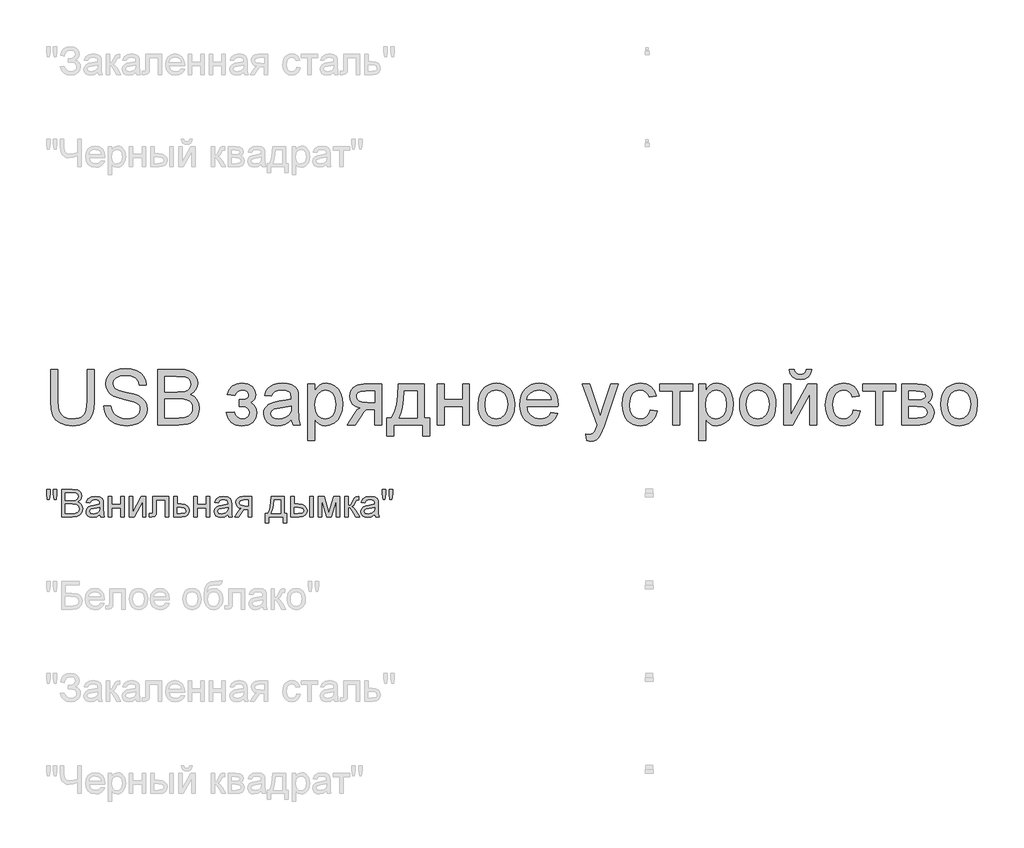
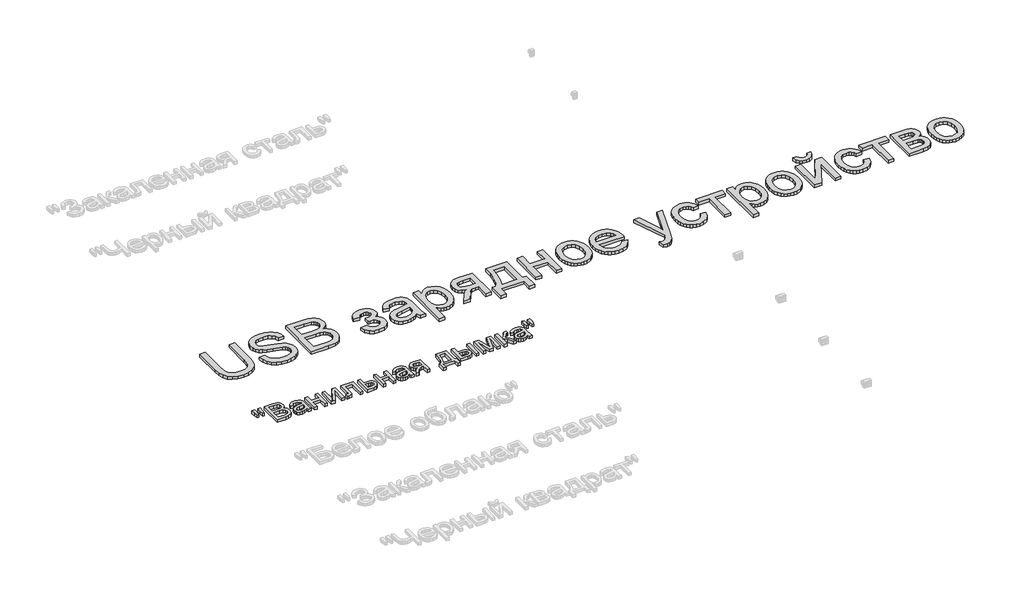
# One storey, part 30 of 168: 2 proxies.
"""IFC4 building model written with IfcOpenShell, lengths in millimetres."""

from ifc_helpers import new_model, si_unit, origin, origin_with_axes, place, context, project, spatial, polyline, outline, extrude, element, save

model = new_model("IFC4")

# Units and contexts
model_context = context("Model", 3, world=origin())
ifc_project = project(units=[si_unit("LENGTHUNIT", "METRE", prefix="MILLI")], contexts=[model_context])

# Site, building, storey
site = spatial("IfcSite", under=ifc_project)
building = spatial("IfcBuilding", under=site)
storey = spatial("IfcBuildingStorey", under=building, Name="Этаж 01", Elevation=0.0)

# Proxies
placement = place(None, origin())
element("IfcBuildingElementProxy", 1, Name="300 мм Arial 2", ObjectType="300 мм Arial 2", at=placement, inside=storey, context=model_context, shape_type="SweptSolid", body=[
    extrude(outline(polyline([(60396.8678623, -52865.4933673), (60434.5389786, -52865.4933673), (60434.5389786, -53039.3543982), (60431.9821987, -53080.069738), (60424.3118591, -53111.4224811), (60409.9828554, -53135.6107222), (60387.4500832, -53154.8325565), (60356.6583602, -53167.3865296), (60317.5525041, -53171.5711873), (60279.3019737, -53167.9291555), (60248.7217828, -53157.0030603), (60225.8027345, -53139.1699805), (60210.5356317, -53114.8069954), (60201.9547842, -53082.1298772), (60199.0945017, -53039.3543982), (60199.0945017, -52865.4933673), (60236.765618, -52865.4933673), (60236.765618, -53038.030023), (60238.623422, -53071.8843636), (60244.1968343, -53095.4564025), (60254.295195, -53111.781166), (60269.7278447, -53123.8936807), (60289.8509899, -53131.3984734), (60314.020837, -53133.900071), (60352.3357467, -53128.9520581), (60366.678546, -53122.7670421), (60377.8115749, -53114.1080196), (60386.1487006, -53101.9311256), (60392.1037904, -53085.1924948), (60396.8678623, -53038.030023), (60396.8678623, -52865.4933673)])), origin_with_axes(), (0.0, 0.0, 1.0), 20.0),
    extrude(outline(polyline([(60486.3367635, -53063.2667279), (60524.0078798, -53063.2667279), (60528.3304932, -53084.1716223), (60536.1479856, -53100.9746324), (60548.3432738, -53114.3103547), (60565.7992744, -53124.8133857), (60587.1364302, -53131.6283996), (60610.9751835, -53133.900071), (60631.9628513, -53132.1802226), (60650.3385569, -53127.0206777), (60665.2285807, -53118.8536974), (60675.7592028, -53108.1115431), (60682.0223938, -53095.7782992), (60684.1101241, -53082.83805), (60682.5466256, -53070.2288947), (60677.8561302, -53059.3303905), (60668.3279865, -53050.0321731), (60652.2515433, -53042.2238778), (60597.4003378, -53027.8396918), (60561.3938876, -53018.3207451), (60538.3552776, -53009.261651), (60519.6024929, -52996.5881163), (60506.3127558, -52981.229043), (60498.3940959, -52963.5155249), (60495.7545426, -52943.7786559), (60499.0194953, -52921.7149332), (60508.8143534, -52901.1411326), (60524.8815995, -52883.703526), (60546.9637163, -52871.0483854), (60573.469614, -52863.3504547), (60602.8082032, -52860.7844777), (60634.5932075, -52863.4700163), (60662.4050864, -52871.526632), (60685.2505583, -52884.7887779), (60702.1363419, -52903.0909072), (60712.8233138, -52925.2925856), (60717.0723509, -52950.253379), (60679.4012346, -52950.253379), (60672.4850531, -52927.7757891), (60658.0640788, -52911.5521931), (60635.5313066, -52901.7297438), (60604.2797311, -52898.4555941), (60572.2923917, -52901.6929556), (60550.3482307, -52911.4050403), (60537.6563018, -52925.6972558), (60533.4256589, -52942.6750099), (60536.4238971, -52957.1511664), (60545.4186119, -52968.7946315), (60566.6821912, -52979.205692), (60606.9284815, -52989.8374817), (60648.4623588, -52999.9358424), (60673.588699, -53008.7466162), (60695.0638105, -53022.4134323), (60710.0458048, -53039.2808218), (60718.8473815, -53059.1648436), (60721.7812404, -53081.8815568), (60718.4059231, -53105.1041078), (60708.2799712, -53126.9471013), (60691.8172519, -53145.7458712), (60669.4316325, -53159.8357516), (60642.5118675, -53168.6373284), (60612.4467114, -53171.5711873), (60575.5389503, -53168.4074021), (60545.1610945, -53158.9160466), (60520.9636563, -53143.0603326), (60502.5971477, -53120.8034719), (60490.8065297, -53093.6905689), (60486.3367635, -53063.2667279)])), origin_with_axes(), (0.0, 0.0, 1.0), 20.0),
    extrude(outline(polyline([(60778.2879149, -53166.8622977), (60778.2879149, -52865.4933673), (60893.2878266, -52865.4933673), (60924.9164811, -52867.7098563), (60949.61056, -52874.3593234), (60968.5380887, -52885.6073154), (60982.8670924, -52901.6193792), (60991.8893983, -52920.4549374), (60994.8968336, -52940.1734123), (60992.3676449, -52958.3191917), (60984.7800788, -52975.3797192), (60972.0789529, -52990.3065312), (60954.209085, -53002.0511639), (60975.5554377, -53013.1979883), (60991.3283783, -53030.1573483), (61001.0680541, -53051.8072037), (61004.3146127, -53077.0255145), (61002.0981237, -53098.0407735), (60995.4486566, -53117.5293222), (60985.5250398, -53134.1024061), (60973.4861015, -53146.3712706), (60958.7432305, -53155.2556208), (60940.7078157, -53161.6751616), (60892.4049098, -53166.8622977), (60778.2879149, -53166.8622977)]), holes=[polyline([(60815.9590312, -52987.9244953), (60884.7529643, -52987.9244953), (60924.9256781, -52984.6871337), (60938.9879674, -52979.1045244), (60949.0955252, -52970.7444061), (60955.1931693, -52959.7355374), (60957.2257173, -52946.206677), (60955.331125, -52933.0732898), (60949.6473482, -52921.6321597), (60940.4319042, -52912.7018243), (60927.9423105, -52907.1008209), (60879.5290399, -52903.1644836), (60815.9590312, -52903.1644836), (60815.9590312, -52987.9244953)]), polyline([(60815.9590312, -53129.1911814), (60893.2142502, -53129.1911814), (60921.1732818, -53127.7196534), (60944.8280941, -53119.515885), (60960.4998671, -53102.7772542), (60965.1075891, -53090.949848), (60966.6434964, -53077.3933965), (60964.8408746, -53061.6480471), (60959.4330093, -53048.1099897), (60949.9876391, -53037.5241853), (60936.0725026, -53030.6355949), (60916.3632247, -53026.8556074), (60889.5354302, -53025.5956116), (60815.9590312, -53025.5956116), (60815.9590312, -53129.1911814)])]), origin_with_axes(), (0.0, 0.0, 1.0), 20.0),
    extrude(outline(polyline([(61220.9235315, -53067.9756174), (61220.9235315, -53030.3045011), (61250.6483967, -53028.8329731), (61265.6579821, -53020.9970866), (61270.9554828, -53013.6486438), (61272.7213164, -53004.6263379), (61270.3576746, -52993.9117748), (61263.2667491, -52985.6068387), (61252.4418214, -52980.2817468), (61238.8761728, -52978.5067162), (61225.1633715, -52980.2725498), (61213.6762562, -52985.5700505), (61204.4148269, -52994.3992184), (61197.3790838, -53006.7600534), (61154.9990779, -53002.0511639), (61166.2378729, -52975.2693546), (61183.3259916, -52956.1394909), (61206.263434, -52944.6615726), (61235.0502001, -52940.8355999), (61266.5408989, -52945.4985042), (61290.3796522, -52959.4872171), (61305.3892376, -52979.950653), (61310.3924327, -53004.0377267), (61308.6128035, -53016.3985617), (61303.2739161, -53027.4350216), (61294.3757703, -53037.1471062), (61281.9183663, -53045.5348157), (61296.4589021, -53056.0010585), (61306.8239773, -53069.005687), (61313.031986, -53084.5854895), (61315.1013222, -53102.7772542), (61309.8498067, -53130.5063596), (61294.0952603, -53152.4781117), (61268.9045407, -53166.7979184), (61235.3445057, -53171.5711873), (61202.5202347, -53167.1566033), (61177.4030914, -53153.9128515), (61159.993076, -53131.8399318), (61150.2901884, -53100.9378442), (61192.6701942, -53096.2289547), (61199.0161586, -53112.1582451), (61209.6663424, -53124.0408335), (61223.3883408, -53131.4352616), (61238.9497492, -53133.900071), (61254.1064874, -53131.5364291), (61266.4673225, -53124.4455037), (61274.6894851, -53113.6757583), (61277.4302059, -53100.2756566), (61275.7287517, -53089.662261), (61270.624389, -53080.4836053), (61256.1298384, -53069.8886038), (61228.2811714, -53067.7548882), (61220.9235315, -53067.9756174)])), origin_with_axes(), (0.0, 0.0, 1.0), 20.0),
    extrude(outline(polyline([(61503.4569038, -53138.6089605), (61485.4582771, -53154.0416102), (61466.9262216, -53164.139971), (61447.4376729, -53169.7133832), (61426.5695668, -53171.5711873), (61395.088065, -53167.101421), (61371.8655141, -53153.6921223), (61357.5457074, -53133.3298539), (61352.7724385, -53108.0011785), (61354.5750603, -53092.3845878), (61359.9829256, -53078.2027369), (61368.3246499, -53066.0626311), (61378.9288484, -53056.5712756), (61405.3059874, -53044.2104405), (61437.9003322, -53038.5450578), (61476.4175771, -53032.5853695), (61503.2361746, -53025.5956116), (61503.4569038, -53017.2079021), (61500.8633357, -53000.3956949), (61493.0826315, -52989.3960233), (61475.6818131, -52981.229043), (61451.4383896, -52978.5067162), (61428.9975879, -52980.318535), (61413.3258149, -52985.7539915), (61402.638843, -52995.806367), (61395.1524444, -53011.468943), (61357.4813281, -53006.7600534), (61364.0204305, -52986.1586617), (61373.7785005, -52969.9718539), (61387.6660458, -52957.5926248), (61406.5935744, -52948.413969), (61429.742549, -52942.7301922), (61456.294432, -52940.8355999), (61481.7610631, -52942.509463), (61501.9485876, -52947.5310522), (61517.1697051, -52955.0818302), (61527.7371154, -52964.3432594), (61534.7452674, -52975.7935865), (61539.2886101, -52989.9110581), (61541.1280201, -53022.8732848), (61541.1280201, -53069.741451), (61543.0410064, -53135.1876579), (61550.5457991, -53166.8622977), (61512.8746828, -53166.8622977), (61503.4569038, -53138.6089605)]), holes=[polyline([(61503.4569038, -53063.2667279), (61442.6827982, -53074.8182225), (61410.2723944, -53080.9250637), (61395.5939028, -53090.8578775), (61390.4435548, -53105.3524281), (61393.2486551, -53116.5544349), (61401.6639557, -53125.7330907), (61415.5055158, -53131.8583259), (61434.5893943, -53133.900071), (61454.822904, -53131.6467937), (61472.701969, -53124.8869621), (61487.1965196, -53114.9265571), (61497.2764862, -53103.0715598), (61501.7462525, -53090.8578775), (61503.2361746, -53073.9353058), (61503.4569038, -53063.2667279)])]), origin_with_axes(), (0.0, 0.0, 1.0), 20.0),
    extrude(outline(polyline([(61592.925805, -53251.6223094), (61592.925805, -52945.5444894), (61630.5969213, -52945.5444894), (61630.5969213, -52982.4798418), (61642.8841799, -52964.2604859), (61656.6429665, -52951.2466604), (61672.6826215, -52943.438365), (61691.8124853, -52940.8355999), (61717.2883135, -52944.4776316), (61739.5635683, -52955.4037269), (61757.7001506, -52972.9516981), (61770.7599615, -52996.4593576), (61778.6510302, -53024.2160541), (61781.2813865, -53054.5111364), (61778.3107394, -53086.7284021), (61769.3987981, -53115.5427594), (61754.8306711, -53139.4918773), (61734.8914669, -53157.1134249), (61711.668916, -53167.9567467), (61687.2507485, -53171.5711873), (61669.9327036, -53169.1523632), (61654.4724628, -53161.8958908), (61641.237908, -53150.9422044), (61630.5969213, -53137.4317381), (61630.5969213, -53251.6223094), (61592.925805, -53251.6223094)]), holes=[polyline([(61630.5969213, -53057.9692272), (61634.6712144, -53091.7407943), (61646.8940937, -53115.3588184), (61664.9295085, -53129.2647578), (61686.4414082, -53133.900071), (61708.3027957, -53129.0992109), (61726.798063, -53114.6966308), (61739.4072184, -53090.214084), (61743.6102702, -53055.173324), (61739.508386, -53021.5856978), (61727.2027332, -52997.63658), (61709.1949096, -52983.2891821), (61687.9865125, -52978.5067162), (61666.6953421, -52983.5926848), (61647.9977397, -52998.8505905), (61634.9471259, -53023.8021869), (61630.5969213, -53057.9692272)])]), origin_with_axes(), (0.0, 0.0, 1.0), 20.0),
    extrude(outline(polyline([(61993.1814157, -52945.5444894), (61993.1814157, -53166.8622977), (61955.5102994, -53166.8622977), (61955.5102994, -53082.102286), (61934.9824841, -53082.102286), (61907.0234525, -53086.884752), (61895.8582339, -53097.3142065), (61880.756678, -53119.0376384), (61850.7375072, -53166.8622977), (61807.180279, -53166.8622977), (61844.9985481, -53106.3824977), (61861.7003907, -53084.67746), (61877.0778581, -53075.0389517), (61851.3261184, -53067.1478829), (61833.2263242, -53052.1566916), (61822.5209582, -53032.2174875), (61818.9525028, -53009.4823802), (61823.8269393, -52983.6938523), (61838.4502486, -52963.2764016), (61862.307396, -52949.9774675), (61894.8833466, -52945.5444894), (61993.1814157, -52945.5444894)]), holes=[polyline([(61955.5102994, -52983.2156057), (61905.8462301, -52983.2156057), (61880.195658, -52985.3953066), (61865.636728, -52991.934409), (61858.8768963, -53001.3981734), (61856.6236191, -53012.3518598), (61859.9437541, -53026.7084546), (61869.9041592, -53036.6688596), (61888.307456, -53042.4905922), (61916.9562663, -53044.4311697), (61955.5102994, -53044.4311697), (61955.5102994, -52983.2156057)])]), origin_with_axes(), (0.0, 0.0, 1.0), 20.0),
    extrude(outline(polyline([(62082.650317, -52945.5444894), (62223.9170031, -52945.5444894), (62223.9170031, -53129.1911814), (62252.1703403, -53129.1911814), (62252.1703403, -53228.0778617), (62214.499224, -53228.0778617), (62214.499224, -53166.8622977), (62059.1058693, -53166.8622977), (62059.1058693, -53228.0778617), (62021.434753, -53228.0778617), (62021.434753, -53129.1911814), (62044.9792007, -53129.1911814), (62062.0949105, -53098.2615027), (62074.0786665, -53057.3438278), (62080.9304686, -53006.4381567), (62082.650317, -52945.5444894)]), holes=[polyline([(62115.6125437, -52983.2156057), (62112.522335, -53029.3388109), (62106.7833758, -53069.0424752), (62098.3956664, -53102.3265987), (62087.3592065, -53129.1911814), (62186.2458868, -53129.1911814), (62186.2458868, -52983.2156057), (62115.6125437, -52983.2156057)])]), origin_with_axes(), (0.0, 0.0, 1.0), 20.0),
    extrude(outline(polyline([(62294.5503462, -52945.5444894), (62332.2214625, -52945.5444894), (62332.2214625, -53030.3045011), (62431.1081428, -53030.3045011), (62431.1081428, -52945.5444894), (62468.7792591, -52945.5444894), (62468.7792591, -53166.8622977), (62431.1081428, -53166.8622977), (62431.1081428, -53067.9756174), (62332.2214625, -53067.9756174), (62332.2214625, -53166.8622977), (62294.5503462, -53166.8622977), (62294.5503462, -52945.5444894)])), origin_with_axes(), (0.0, 0.0, 1.0), 20.0),
    extrude(outline(polyline([(62515.8681545, -53056.2033936), (62517.905301, -53027.5407876), (62524.0167407, -53002.8421102), (62534.2024734, -52982.1073612), (62548.4624993, -52965.3365408), (62562.8190941, -52954.6173791), (62578.6656111, -52946.9608351), (62596.0020501, -52942.3669087), (62614.8284112, -52940.8355999), (62635.6114447, -52942.7003018), (62654.4033168, -52948.2944073), (62671.2040277, -52957.6179167), (62686.0135773, -52970.6708297), (62698.1008001, -52987.0116881), (62706.7345306, -53006.1990334), (62711.914769, -53028.2328656), (62713.6415151, -53053.1131848), (62710.5880945, -53091.1705772), (62701.4278329, -53120.1412843), (62686.4274445, -53141.837125), (62665.8536439, -53158.069918), (62641.4170824, -53168.19587), (62614.8284112, -53171.5711873), (62593.7418751, -53169.7133832), (62574.775259, -53164.139971), (62557.9285628, -53154.8509506), (62543.2017867, -53141.8463221), (62531.2433226, -53125.3468146), (62522.7015625, -53105.5731573), (62517.5765065, -53082.5253503), (62515.8681545, -53056.2033936)]), holes=[polyline([(62553.5392708, -53056.1298172), (62557.8986724, -53090.2232811), (62570.9768774, -53114.5126898), (62590.6585641, -53129.0532257), (62614.8284112, -53133.900071), (62638.8878937, -53129.0256345), (62658.5327922, -53114.4023252), (62671.6109971, -53089.7910197), (62675.9703988, -53054.9525948), (62671.583406, -53021.8524123), (62658.4224276, -52997.8940973), (62638.7499379, -52983.3535615), (62614.8284112, -52978.5067162), (62590.6585641, -52983.3351674), (62570.9768774, -52997.820521), (62557.8986724, -53022.0547474), (62553.5392708, -53056.1298172)])]), origin_with_axes(), (0.0, 0.0, 1.0), 20.0),
    extrude(outline(polyline([(62910.9734173, -53100.9378442), (62947.9087696, -53105.6467337), (62934.6006384, -53133.4770067), (62913.3646503, -53154.2807335), (62884.6790517, -53167.2485738), (62849.0220893, -53171.5711873), (62825.647787, -53169.7064854), (62804.8210676, -53164.1123798), (62786.541931, -53154.7888705), (62770.8103771, -53141.7359575), (62758.159835, -53125.3169242), (62749.1237335, -53105.8950541), (62743.7020726, -53083.4703472), (62741.8948523, -53058.0428036), (62743.7204667, -53031.7530365), (62749.1973099, -53008.5810693), (62758.3253819, -52988.526902), (62771.1046827, -52971.5905347), (62786.7948498, -52958.1352507), (62804.6555207, -52948.5243336), (62824.6866953, -52942.7577833), (62846.8883737, -52940.8355999), (62868.3749815, -52942.7531848), (62887.8060487, -52948.5059395), (62905.1815751, -52958.093864), (62920.501561, -52971.5169583), (62933.0072496, -52988.4165374), (62941.9398842, -53008.4339165), (62947.2994651, -53031.5690955), (62949.085992, -53057.8220744), (62948.8652628, -53067.9756174), (62779.5659686, -53067.9756174), (62786.086677, -53096.1737724), (62801.2342181, -53116.9039228), (62823.0956057, -53129.6510339), (62849.7578533, -53133.900071), (62869.807422, -53131.9319023), (62886.6932056, -53126.0273963), (62900.415204, -53115.8186709), (62910.9734173, -53100.9378442)]), holes=[polyline([(62779.5659686, -53030.3045011), (62911.4148757, -53030.3045011), (62906.3197101, -53010.4020852), (62896.3317139, -52996.165052), (62874.3691588, -52982.9213001), (62846.7412209, -52978.5067162), (62821.3481662, -52982.0291863), (62800.3513014, -52992.5965966), (62785.7555832, -53009.068513), (62779.5659686, -53030.3045011)])]), origin_with_axes(), (0.0, 0.0, 1.0), 20.0),
    extrude(outline(polyline([(63104.4793468, -53251.6223094), (63099.7704572, -53215.3491447), (63118.900321, -53218.6600827), (63136.7793859, -53214.5030161), (63147.7422694, -53202.9147333), (63158.0429653, -53175.1764308), (63160.9860212, -53166.0529573), (63080.9348991, -52945.5444894), (63120.6661546, -52945.5444894), (63163.1197368, -53068.4170758), (63177.908593, -53117.5661104), (63192.6974492, -53074.1560349), (63236.3282538, -52945.5444894), (63275.7652037, -52945.5444894), (63198.7307139, -53172.1597985), (63178.7179334, -53221.308833), (63168.4724198, -53236.9990001), (63156.8657429, -53247.8699131), (63143.3828678, -53254.2158775), (63127.5087597, -53256.331199), (63104.4793468, -53251.6223094)])), origin_with_axes(), (0.0, 0.0, 1.0), 20.0),
    extrude(outline(polyline([(63448.2282831, -53086.8111756), (63485.8993994, -53091.5200651), (63475.3963684, -53125.0249178), (63455.6594994, -53150.3443962), (63428.5465963, -53166.2644895), (63395.9154633, -53171.5711873), (63374.7875405, -53169.720281), (63355.843917, -53164.1675621), (63339.0845929, -53154.9130307), (63324.5095681, -53141.9566867), (63312.7120523, -53125.5422519), (63304.2852554, -53105.9134482), (63299.2291772, -53083.0702755), (63297.5438178, -53057.012734), (63300.4224944, -53023.4894872), (63309.0585243, -52994.4360066), (63323.5898631, -52970.9743324), (63344.1544666, -52954.2265045), (63368.7565751, -52944.1833261), (63395.4004286, -52940.8355999), (63427.2314182, -52945.4341248), (63452.6796552, -52959.2296997), (63470.9357992, -52981.4865604), (63481.1905098, -53011.468943), (63443.5193935, -53016.1778325), (63436.6859855, -52999.7427044), (63426.0449987, -52987.9612835), (63412.1850446, -52980.870358), (63395.6947341, -52978.5067162), (63371.3501431, -52983.1604234), (63352.0271413, -52997.1215452), (63339.4179859, -53021.1442394), (63335.2149341, -53055.9826644), (63339.3260154, -53091.2901389), (63351.6592593, -53115.3956066), (63370.6327732, -53129.2739549), (63394.6646646, -53133.900071), (63414.1716074, -53131.0121973), (63430.1652771, -53122.3485763), (63441.7995452, -53107.6884788), (63448.2282831, -53086.8111756)])), origin_with_axes(), (0.0, 0.0, 1.0), 20.0),
    extrude(outline(polyline([(63500.026068, -52945.5444894), (63678.9638704, -52945.5444894), (63678.9638704, -52983.2156057), (63608.3305274, -52983.2156057), (63608.3305274, -53166.8622977), (63570.6594111, -53166.8622977), (63570.6594111, -52983.2156057), (63500.026068, -52983.2156057), (63500.026068, -52945.5444894)])), origin_with_axes(), (0.0, 0.0, 1.0), 20.0),
    extrude(outline(polyline([(63711.9260972, -53251.6223094), (63711.9260972, -52945.5444894), (63749.5972135, -52945.5444894), (63749.5972135, -52982.4798418), (63761.8844721, -52964.2604859), (63775.6432588, -52951.2466604), (63791.6829138, -52943.438365), (63810.8127775, -52940.8355999), (63836.2886057, -52944.4776316), (63858.5638605, -52955.4037269), (63876.7004428, -52972.9516981), (63889.7602537, -52996.4593576), (63897.6513225, -53024.2160541), (63900.2816787, -53054.5111364), (63897.3110316, -53086.7284021), (63888.3990903, -53115.5427594), (63873.8309633, -53139.4918773), (63853.8917591, -53157.1134249), (63830.6692082, -53167.9567467), (63806.2510408, -53171.5711873), (63788.9329958, -53169.1523632), (63773.472755, -53161.8958908), (63760.2382002, -53150.9422044), (63749.5972135, -53137.4317381), (63749.5972135, -53251.6223094), (63711.9260972, -53251.6223094)]), holes=[polyline([(63749.5972135, -53057.9692272), (63753.6715066, -53091.7407943), (63765.8943859, -53115.3588184), (63783.9298007, -53129.2647578), (63805.4417004, -53133.900071), (63827.3030879, -53129.0992109), (63845.7983552, -53114.6966308), (63858.4075106, -53090.214084), (63862.6105624, -53055.173324), (63858.5086782, -53021.5856978), (63846.2030254, -52997.63658), (63828.1952018, -52983.2891821), (63806.9868048, -52978.5067162), (63785.6956343, -52983.5926848), (63766.9980319, -52998.8505905), (63753.9474181, -53023.8021869), (63749.5972135, -53057.9692272)])]), origin_with_axes(), (0.0, 0.0, 1.0), 20.0),
    extrude(outline(polyline([(63933.2439055, -53056.2033936), (63935.281052, -53027.5407876), (63941.3924917, -53002.8421102), (63951.5782244, -52982.1073612), (63965.8382503, -52965.3365408), (63980.1948451, -52954.6173791), (63996.0413621, -52946.9608351), (64013.3778011, -52942.3669087), (64032.2041622, -52940.8355999), (64052.9871957, -52942.7003018), (64071.7790678, -52948.2944073), (64088.5797787, -52957.6179167), (64103.3893283, -52970.6708297), (64115.4765511, -52987.0116881), (64124.1102816, -53006.1990334), (64129.29052, -53028.2328656), (64131.0172661, -53053.1131848), (64127.9638455, -53091.1705772), (64118.8035839, -53120.1412843), (64103.8031955, -53141.837125), (64083.2293949, -53158.069918), (64058.7928334, -53168.19587), (64032.2041622, -53171.5711873), (64011.1176261, -53169.7133832), (63992.15101, -53164.139971), (63975.3043139, -53154.8509506), (63960.5775377, -53141.8463221), (63948.6190736, -53125.3468146), (63940.0773136, -53105.5731573), (63934.9522575, -53082.5253503), (63933.2439055, -53056.2033936)]), holes=[polyline([(63970.9150218, -53056.1298172), (63975.2744234, -53090.2232811), (63988.3526284, -53114.5126898), (64008.0343151, -53129.0532257), (64032.2041622, -53133.900071), (64056.2636447, -53129.0256345), (64075.9085432, -53114.4023252), (64088.9867482, -53089.7910197), (64093.3461498, -53054.9525948), (64088.959157, -53021.8524123), (64075.7981786, -52997.8940973), (64056.1256889, -52983.3535615), (64032.2041622, -52978.5067162), (64008.0343151, -52983.3351674), (63988.3526284, -52997.820521), (63975.2744234, -53022.0547474), (63970.9150218, -53056.1298172)])]), origin_with_axes(), (0.0, 0.0, 1.0), 20.0),
    extrude(outline(polyline([(64173.397272, -52945.5444894), (64211.0683883, -52945.5444894), (64211.0683883, -53114.3287488), (64303.6274982, -52945.5444894), (64352.3350744, -52945.5444894), (64352.3350744, -53166.8622977), (64314.6639581, -53166.8622977), (64314.6639581, -52999.1081079), (64222.6934593, -53166.8622977), (64173.397272, -53166.8622977), (64173.397272, -52945.5444894)])), origin_with_axes(), (0.0, 0.0, 1.0), 20.0),
    extrude(outline(polyline([(64295.8283999, -52865.4933673), (64324.0817372, -52865.4933673), (64318.0024872, -52889.6172291), (64305.798002, -52907.3951265), (64288.0201046, -52918.3488129), (64265.2206179, -52922.0000417), (64240.4805538, -52918.3764041), (64221.2955077, -52907.5054911), (64208.1805146, -52889.7551849), (64201.6506092, -52865.4933673), (64229.9039464, -52865.4933673), (64233.877072, -52877.9001876), (64240.4989479, -52886.7201584), (64249.8063623, -52891.990068), (64261.8361036, -52893.7467045), (64275.4109492, -52892.0452503), (64285.2333985, -52886.9408876), (64291.8552744, -52878.1760991), (64295.8283999, -52865.4933673)])), origin_with_axes(), (0.0, 0.0, 1.0), 20.0),
    extrude(outline(polyline([(64550.108435, -53086.8111756), (64587.7795513, -53091.5200651), (64577.2765204, -53125.0249178), (64557.5396513, -53150.3443962), (64530.4267483, -53166.2644895), (64497.7956153, -53171.5711873), (64476.6676925, -53169.720281), (64457.724069, -53164.1675621), (64440.9647448, -53154.9130307), (64426.38972, -53141.9566867), (64414.5922043, -53125.5422519), (64406.1654073, -53105.9134482), (64401.1093292, -53083.0702755), (64399.4239698, -53057.012734), (64402.3026464, -53023.4894872), (64410.9386762, -52994.4360066), (64425.470015, -52970.9743324), (64446.0346186, -52954.2265045), (64470.636727, -52944.1833261), (64497.2805805, -52940.8355999), (64529.1115701, -52945.4341248), (64554.5598072, -52959.2296997), (64572.8159512, -52981.4865604), (64583.0706618, -53011.468943), (64545.3995455, -53016.1778325), (64538.5661374, -52999.7427044), (64527.9251507, -52987.9612835), (64514.0651965, -52980.870358), (64497.5748861, -52978.5067162), (64473.2302951, -52983.1604234), (64453.9072933, -52997.1215452), (64441.2981379, -53021.1442394), (64437.0950861, -53055.9826644), (64441.2061674, -53091.2901389), (64453.5394113, -53115.3956066), (64472.5129252, -53129.2739549), (64496.5448165, -53133.900071), (64516.0517593, -53131.0121973), (64532.045429, -53122.3485763), (64543.6796971, -53107.6884788), (64550.108435, -53086.8111756)])), origin_with_axes(), (0.0, 0.0, 1.0), 20.0),
    extrude(outline(polyline([(64601.9062199, -52945.5444894), (64780.8440224, -52945.5444894), (64780.8440224, -52983.2156057), (64710.2106793, -52983.2156057), (64710.2106793, -53166.8622977), (64672.539563, -53166.8622977), (64672.539563, -52983.2156057), (64601.9062199, -52983.2156057), (64601.9062199, -52945.5444894)])), origin_with_axes(), (0.0, 0.0, 1.0), 20.0),
    extrude(outline(polyline([(64813.8062492, -52945.5444894), (64896.8004273, -52945.5444894), (64923.481069, -52946.8044853), (64942.3074301, -52950.5844728), (64956.1581872, -52957.7213835), (64967.9120169, -52969.0521489), (64975.9410415, -52983.813414), (64978.617383, -53001.2418235), (64976.9987022, -53015.2857187), (64972.1426599, -53027.3982334), (64964.0308619, -53037.6345499), (64952.6449141, -53046.0498505), (64966.5876418, -53053.87654), (64977.9551954, -53066.4673013), (64985.5151704, -53082.828853), (64988.0351621, -53101.9679138), (64981.6524095, -53130.6811035), (64966.4772772, -53150.8962191), (64942.4545829, -53162.8707781), (64909.5291443, -53166.8622977), (64813.8062492, -53166.8622977), (64813.8062492, -52945.5444894)]), holes=[polyline([(64851.4773655, -53030.3045011), (64888.7070234, -53030.3045011), (64919.42517, -53028.3915147), (64934.361179, -53020.7395692), (64939.2999948, -53014.4119989), (64940.9462667, -53006.9072062), (64938.058393, -52995.6684113), (64929.394772, -52988.4395301), (64913.7413931, -52984.5215868), (64889.8842458, -52983.2156057), (64851.4773655, -52983.2156057), (64851.4773655, -53030.3045011)]), polyline([(64851.4773655, -53129.1911814), (64897.6833441, -53129.1911814), (64922.8648666, -53127.4897272), (64938.6653983, -53122.3853645), (64947.1450783, -53113.1055412), (64950.3640458, -53098.877705), (64948.754562, -53089.4507289), (64943.9261108, -53080.7411227), (64936.5132886, -53073.9261087), (64927.1506919, -53070.1829094), (64894.0045241, -53067.9756174), (64851.4773655, -53067.9756174), (64851.4773655, -53129.1911814)])]), origin_with_axes(), (0.0, 0.0, 1.0), 20.0),
    extrude(outline(polyline([(65025.7062784, -53056.2033936), (65027.7434249, -53027.5407876), (65033.8548646, -53002.8421102), (65044.0405973, -52982.1073612), (65058.3006231, -52965.3365408), (65072.657218, -52954.6173791), (65088.503735, -52946.9608351), (65105.840174, -52942.3669087), (65124.6665351, -52940.8355999), (65145.4495685, -52942.7003018), (65164.2414407, -52948.2944073), (65181.0421516, -52957.6179167), (65195.8517011, -52970.6708297), (65207.938924, -52987.0116881), (65216.5726545, -53006.1990334), (65221.7528929, -53028.2328656), (65223.479639, -53053.1131848), (65220.4262184, -53091.1705772), (65211.2659567, -53120.1412843), (65196.2655684, -53141.837125), (65175.6917678, -53158.069918), (65151.2552063, -53168.19587), (65124.6665351, -53171.5711873), (65103.579999, -53169.7133832), (65084.6133829, -53164.139971), (65067.7666867, -53154.8509506), (65053.0399106, -53141.8463221), (65041.0814465, -53125.3468146), (65032.5396864, -53105.5731573), (65027.4146304, -53082.5253503), (65025.7062784, -53056.2033936)]), holes=[polyline([(65063.3773947, -53056.1298172), (65067.7367963, -53090.2232811), (65080.8150013, -53114.5126898), (65100.496688, -53129.0532257), (65124.6665351, -53133.900071), (65148.7260176, -53129.0256345), (65168.3709161, -53114.4023252), (65181.449121, -53089.7910197), (65185.8085227, -53054.9525948), (65181.4215299, -53021.8524123), (65168.2605515, -52997.8940973), (65148.5880618, -52983.3535615), (65124.6665351, -52978.5067162), (65100.496688, -52983.3351674), (65080.8150013, -52997.820521), (65067.7367963, -53022.0547474), (65063.3773947, -53056.1298172)])]), origin_with_axes(), (0.0, 0.0, 1.0), 20.0),
])
element("IfcBuildingElementProxy", 2, Name="150", ObjectType="150", at=placement, inside=storey, context=model_context, shape_type="SweptSolid", body=[
    extrude(outline(polyline([(60180.1485789, -53570.3300622), (60175.550054, -53541.2305964), (60175.550054, -53516.1778325), (60194.3856121, -53516.1778325), (60194.3856121, -53541.2305964), (60190.2653338, -53570.3300622), (60180.1485789, -53570.3300622)])), origin_with_axes(), (0.0, 0.0, 1.0), 20.0),
    extrude(outline(polyline([(60217.7093306, -53570.3300622), (60213.2211703, -53541.2305964), (60213.2211703, -53516.1778325), (60232.0567284, -53516.1778325), (60232.0567284, -53541.2305964), (60227.6421445, -53570.3300622), (60217.7093306, -53570.3300622)])), origin_with_axes(), (0.0, 0.0, 1.0), 20.0),
    extrude(outline(polyline([(60257.9556209, -53666.8622977), (60257.9556209, -53516.1778325), (60315.4555767, -53516.1778325), (60343.6169435, -53520.6108106), (60353.0807078, -53526.2348066), (60360.2452096, -53534.2408385), (60366.2600803, -53553.517855), (60361.2017028, -53571.1210085), (60345.9162059, -53584.4567308), (60356.5893823, -53590.030143), (60364.4758526, -53598.509823), (60369.3456905, -53609.3347507), (60370.9689698, -53621.9439061), (60366.5359918, -53642.19581), (60355.5547142, -53656.6167842), (60339.1655713, -53664.2687297), (60315.0141183, -53666.8622977), (60257.9556209, -53666.8622977)]), holes=[polyline([(60276.791179, -53577.3933965), (60311.1881456, -53577.3933965), (60331.2745025, -53575.7747157), (60343.3594261, -53568.8033519), (60347.4245221, -53556.5344874), (60343.6353376, -53544.2472287), (60332.7828187, -53536.9815593), (60308.5761834, -53535.0133907), (60276.791179, -53535.0133907), (60276.791179, -53577.3933965)]), polyline([(60276.791179, -53648.0267396), (60315.4187885, -53648.0267396), (60329.3983043, -53647.2909756), (60341.2257105, -53643.1890913), (60349.061597, -53634.819776), (60352.1334117, -53622.1278471), (60348.5281681, -53607.4861437), (60336.8479148, -53598.7489463), (60313.5793786, -53596.2289547), (60276.791179, -53596.2289547), (60276.791179, -53648.0267396)])]), origin_with_axes(), (0.0, 0.0, 1.0), 20.0),
    extrude(outline(polyline([(60465.1467606, -53652.7356291), (60446.8814195, -53665.5011344), (60426.7030921, -53669.2167425), (60410.9623412, -53666.9818594), (60399.3510657, -53660.27721), (60392.1911624, -53650.0960758), (60389.804528, -53637.4317381), (60393.4097715, -53622.5325173), (60402.8827329, -53611.7167867), (60416.0713024, -53605.5363691), (60432.3684748, -53602.7036778), (60465.036396, -53596.2289547), (60465.1467606, -53592.0350999), (60463.8499765, -53583.6289963), (60459.9596244, -53578.1291605), (60451.2592153, -53574.0456704), (60439.1375035, -53572.684507), (60420.0812162, -53576.3081446), (60410.9945309, -53589.1656204), (60392.1589727, -53586.8111756), (60400.3075589, -53568.4170758), (60416.7150959, -53557.6381334), (60441.5655247, -53553.8489488), (60464.3926025, -53557.196675), (60477.2868664, -53565.6027786), (60483.0626137, -53578.3866779), (60483.9823187, -53594.8677913), (60483.9823187, -53618.3018744), (60484.9388119, -53651.0249778), (60488.6912083, -53666.8622977), (60469.8556501, -53666.8622977), (60465.1467606, -53652.7356291)]), holes=[polyline([(60465.1467606, -53615.0645128), (60434.7597078, -53620.8402601), (60418.5545059, -53623.8936807), (60411.2152601, -53628.8600876), (60408.6400861, -53636.1073629), (60414.2502865, -53646.2976942), (60430.7130058, -53650.3811843), (60449.7692932, -53645.8746299), (60462.0565518, -53634.9669288), (60465.036396, -53620.3988017), (60465.1467606, -53615.0645128)])]), origin_with_axes(), (0.0, 0.0, 1.0), 20.0),
    extrude(outline(polyline([(60509.8812112, -53556.2033936), (60528.7167693, -53556.2033936), (60528.7167693, -53598.5833994), (60578.1601095, -53598.5833994), (60578.1601095, -53556.2033936), (60596.9956676, -53556.2033936), (60596.9956676, -53666.8622977), (60578.1601095, -53666.8622977), (60578.1601095, -53617.4189576), (60528.7167693, -53617.4189576), (60528.7167693, -53666.8622977), (60509.8812112, -53666.8622977), (60509.8812112, -53556.2033936)])), origin_with_axes(), (0.0, 0.0, 1.0), 20.0),
    extrude(outline(polyline([(60625.2490049, -53556.2033936), (60644.084563, -53556.2033936), (60644.084563, -53640.5955233), (60690.364118, -53556.2033936), (60714.7179061, -53556.2033936), (60714.7179061, -53666.8622977), (60695.8823479, -53666.8622977), (60695.8823479, -53582.9852028), (60649.8970985, -53666.8622977), (60625.2490049, -53666.8622977), (60625.2490049, -53556.2033936)])), origin_with_axes(), (0.0, 0.0, 1.0), 20.0),
    extrude(outline(polyline([(60752.3890224, -53556.2033936), (60837.1490341, -53556.2033936), (60837.1490341, -53666.7519331), (60818.3134759, -53666.7519331), (60818.3134759, -53575.0389517), (60771.2245806, -53575.0389517), (60771.2245806, -53627.830018), (60769.9553877, -53652.1838061), (60762.9840239, -53662.4661079), (60746.5029105, -53666.8622977), (60731.1990195, -53665.9058045), (60731.1990195, -53648.0267396), (60739.6235172, -53648.0267396), (60748.1399854, -53646.8679113), (60751.5428938, -53643.1890913), (60752.3890224, -53626.7631603), (60752.3890224, -53556.2033936)])), origin_with_axes(), (0.0, 0.0, 1.0), 20.0),
    extrude(outline(polyline([(60865.4023713, -53556.2033936), (60884.2379295, -53556.2033936), (60884.2379295, -53596.2289547), (60905.9429672, -53596.2289547), (60924.7601312, -53598.587998), (60938.6844648, -53605.6651278), (60947.2929034, -53616.8901272), (60950.162383, -53631.692779), (60947.7205663, -53645.1710556), (60940.395116, -53656.5432078), (60927.6985887, -53664.2825252), (60909.1435405, -53666.8622977), (60865.4023713, -53666.8622977), (60865.4023713, -53556.2033936)]), holes=[polyline([(60884.2379295, -53648.0267396), (60901.8226888, -53648.0267396), (60924.539402, -53644.0720081), (60929.6299692, -53639.0090322), (60931.3268249, -53631.7295672), (60926.3052356, -53620.1412843), (60918.2348244, -53616.3337057), (60904.066769, -53615.0645128), (60884.2379295, -53615.0645128), (60884.2379295, -53648.0267396)])]), origin_with_axes(), (0.0, 0.0, 1.0), 20.0),
    extrude(outline(polyline([(60973.7068307, -53556.2033936), (60992.5423889, -53556.2033936), (60992.5423889, -53598.5833994), (61041.985729, -53598.5833994), (61041.985729, -53556.2033936), (61060.8212872, -53556.2033936), (61060.8212872, -53666.8622977), (61041.985729, -53666.8622977), (61041.985729, -53617.4189576), (60992.5423889, -53617.4189576), (60992.5423889, -53666.8622977), (60973.7068307, -53666.8622977), (60973.7068307, -53556.2033936)])), origin_with_axes(), (0.0, 0.0, 1.0), 20.0),
    extrude(outline(polyline([(61159.7079675, -53652.7356291), (61141.4426264, -53665.5011344), (61121.264299, -53669.2167425), (61105.5235481, -53666.9818594), (61093.9122726, -53660.27721), (61086.7523693, -53650.0960758), (61084.3657349, -53637.4317381), (61087.9709784, -53622.5325173), (61097.4439398, -53611.7167867), (61110.6325093, -53605.5363691), (61126.9296817, -53602.7036778), (61159.5976029, -53596.2289547), (61159.7079675, -53592.0350999), (61158.4111834, -53583.6289963), (61154.5208313, -53578.1291605), (61145.8204221, -53574.0456704), (61133.6987104, -53572.684507), (61114.6424231, -53576.3081446), (61105.5557378, -53589.1656204), (61086.7201796, -53586.8111756), (61094.8687658, -53568.4170758), (61111.2763028, -53557.6381334), (61136.1267316, -53553.8489488), (61158.9538094, -53557.196675), (61171.8480733, -53565.6027786), (61177.6238206, -53578.3866779), (61178.5435256, -53594.8677913), (61178.5435256, -53618.3018744), (61179.5000188, -53651.0249778), (61183.2524152, -53666.8622977), (61164.416857, -53666.8622977), (61159.7079675, -53652.7356291)]), holes=[polyline([(61159.7079675, -53615.0645128), (61129.3209147, -53620.8402601), (61113.1157128, -53623.8936807), (61105.776467, -53628.8600876), (61103.201293, -53636.1073629), (61108.8114934, -53646.2976942), (61125.2742127, -53650.3811843), (61144.3305001, -53645.8746299), (61156.6177587, -53634.9669288), (61159.5976029, -53620.3988017), (61159.7079675, -53615.0645128)])]), origin_with_axes(), (0.0, 0.0, 1.0), 20.0),
    extrude(outline(polyline([(61289.2024298, -53556.2033936), (61289.2024298, -53666.8622977), (61270.3668716, -53666.8622977), (61270.3668716, -53624.4822919), (61260.1029639, -53624.4822919), (61246.1234481, -53626.8735249), (61232.9900609, -53642.949968), (61217.9804755, -53666.8622977), (61196.2018614, -53666.8622977), (61215.1109959, -53636.6223977), (61223.4619172, -53625.7698789), (61231.1506509, -53620.9506247), (61218.2747811, -53617.0050903), (61209.224884, -53609.5094947), (61203.872201, -53599.5398926), (61202.0879733, -53588.172339), (61204.5251915, -53575.278075), (61211.8368462, -53565.0693497), (61223.7654199, -53558.4198826), (61240.0533952, -53556.2033936), (61289.2024298, -53556.2033936)]), holes=[polyline([(61270.3668716, -53575.0389517), (61245.5348369, -53575.0389517), (61232.7095509, -53576.1288021), (61225.4300859, -53579.3983534), (61220.9235315, -53589.6070787), (61222.583599, -53596.7853762), (61227.5638015, -53601.7655787), (61251.0898551, -53605.6467337), (61270.3668716, -53605.6467337), (61270.3668716, -53575.0389517)])]), origin_with_axes(), (0.0, 0.0, 1.0), 20.0),
    extrude(outline(polyline([(61392.7979996, -53556.2033936), (61463.4313427, -53556.2033936), (61463.4313427, -53648.0267396), (61477.5580113, -53648.0267396), (61477.5580113, -53697.4700797), (61458.7224531, -53697.4700797), (61458.7224531, -53666.8622977), (61381.0257758, -53666.8622977), (61381.0257758, -53697.4700797), (61362.1902176, -53697.4700797), (61362.1902176, -53648.0267396), (61373.9624415, -53648.0267396), (61382.5202964, -53632.5619002), (61388.5121744, -53612.1030628), (61392.7979996, -53556.2033936)]), holes=[polyline([(61409.279113, -53575.0389517), (61404.864529, -53617.9523865), (61395.1524444, -53648.0267396), (61444.5957845, -53648.0267396), (61444.5957845, -53575.0389517), (61409.279113, -53575.0389517)])]), origin_with_axes(), (0.0, 0.0, 1.0), 20.0),
    extrude(outline(polyline([(61602.3435841, -53556.2033936), (61621.1791422, -53556.2033936), (61621.1791422, -53666.8622977), (61602.3435841, -53666.8622977), (61602.3435841, -53556.2033936)])), origin_with_axes(), (0.0, 0.0, 1.0), 20.0),
    extrude(outline(polyline([(61498.7480142, -53556.2033936), (61517.5835724, -53556.2033936), (61517.5835724, -53596.2289547), (61540.8705027, -53596.2289547), (61560.9982463, -53598.587998), (61575.9112627, -53605.6651278), (61585.1405023, -53616.8901272), (61588.2169154, -53631.692779), (61585.637143, -53645.1710556), (61577.8978255, -53656.5432078), (61564.4931253, -53664.2825252), (61544.9172046, -53666.8622977), (61498.7480142, -53666.8622977), (61498.7480142, -53556.2033936)]), holes=[polyline([(61517.5835724, -53648.0267396), (61536.9341653, -53648.0267396), (61561.9133528, -53644.0720081), (61567.5143562, -53639.0090322), (61569.3813573, -53631.7295672), (61563.8447333, -53620.1412843), (61554.9649816, -53616.3337057), (61539.3989747, -53615.0645128), (61517.5835724, -53615.0645128), (61517.5835724, -53648.0267396)])]), origin_with_axes(), (0.0, 0.0, 1.0), 20.0),
    extrude(outline(polyline([(61649.4324794, -53556.2033936), (61681.8428832, -53556.2033936), (61706.8220707, -53644.789378), (61733.7510327, -53556.2033936), (61764.8002731, -53556.2033936), (61764.8002731, -53666.8622977), (61745.964715, -53666.8622977), (61745.964715, -53577.7612785), (61718.8886001, -53666.8622977), (61694.1669301, -53666.8622977), (61668.2680376, -53573.4938474), (61668.2680376, -53666.8622977), (61649.4324794, -53666.8622977), (61649.4324794, -53556.2033936)])), origin_with_axes(), (0.0, 0.0, 1.0), 20.0),
    extrude(outline(polyline([(61793.0536104, -53556.2033936), (61811.8891685, -53556.2033936), (61811.8891685, -53603.292289), (61824.5075209, -53599.9077746), (61834.845005, -53580.1892997), (61843.4350496, -53563.1747574), (61851.0134187, -53557.6381334), (61864.7905994, -53556.2033936), (61868.395843, -53556.2033936), (61868.395843, -53575.1493163), (61863.3190714, -53575.0389517), (61854.1220216, -53577.0255145), (61847.6472984, -53589.4231377), (61840.0505352, -53602.8324365), (61829.4003515, -53609.3991301), (61841.2829399, -53616.7291788), (61852.9447992, -53632.1710256), (61873.1047325, -53666.8622977), (61851.6940004, -53666.8622977), (61831.9387372, -53632.9067896), (61822.0059234, -53618.5409977), (61811.8891685, -53615.0645128), (61811.8891685, -53666.8622977), (61793.0536104, -53666.8622977), (61793.0536104, -53556.2033936)])), origin_with_axes(), (0.0, 0.0, 1.0), 20.0),
    extrude(outline(polyline([(61955.5102994, -53652.7356291), (61937.2449584, -53665.5011344), (61917.0666309, -53669.2167425), (61901.3258801, -53666.9818594), (61889.7146046, -53660.27721), (61882.5547013, -53650.0960758), (61880.1680668, -53637.4317381), (61883.7733104, -53622.5325173), (61893.2462717, -53611.7167867), (61906.4348413, -53605.5363691), (61922.7320137, -53602.7036778), (61955.3999348, -53596.2289547), (61955.5102994, -53592.0350999), (61954.2135154, -53583.6289963), (61950.3231633, -53578.1291605), (61941.6227541, -53574.0456704), (61929.5010424, -53572.684507), (61910.444755, -53576.3081446), (61901.3580697, -53589.1656204), (61882.5225116, -53586.8111756), (61890.6710978, -53568.4170758), (61907.0786348, -53557.6381334), (61931.9290635, -53553.8489488), (61954.7561413, -53557.196675), (61967.6504053, -53565.6027786), (61973.4261526, -53578.3866779), (61974.3458576, -53594.8677913), (61974.3458576, -53618.3018744), (61975.3023508, -53651.0249778), (61979.0547471, -53666.8622977), (61960.219189, -53666.8622977), (61955.5102994, -53652.7356291)]), holes=[polyline([(61955.5102994, -53615.0645128), (61925.1232466, -53620.8402601), (61908.9180447, -53623.8936807), (61901.5787989, -53628.8600876), (61899.003625, -53636.1073629), (61904.6138254, -53646.2976942), (61921.0765447, -53650.3811843), (61940.132832, -53645.8746299), (61952.4200907, -53634.9669288), (61955.3999348, -53620.3988017), (61955.5102994, -53615.0645128)])]), origin_with_axes(), (0.0, 0.0, 1.0), 20.0),
    extrude(outline(polyline([(62000.1343854, -53570.3300622), (61995.5358605, -53541.2305964), (61995.5358605, -53516.1778325), (62014.3714187, -53516.1778325), (62014.3714187, -53541.2305964), (62010.2511403, -53570.3300622), (62000.1343854, -53570.3300622)])), origin_with_axes(), (0.0, 0.0, 1.0), 20.0),
    extrude(outline(polyline([(62037.6951372, -53570.3300622), (62033.2069768, -53541.2305964), (62033.2069768, -53516.1778325), (62052.042535, -53516.1778325), (62052.042535, -53541.2305964), (62047.627951, -53570.3300622), (62037.6951372, -53570.3300622)])), origin_with_axes(), (0.0, 0.0, 1.0), 20.0),
])

save(model, "model.ifc")
